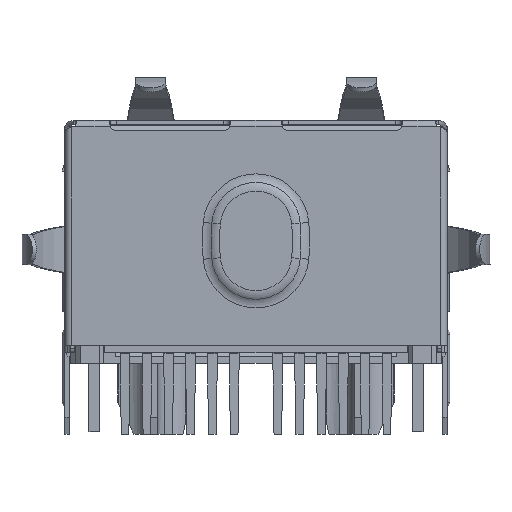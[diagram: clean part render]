
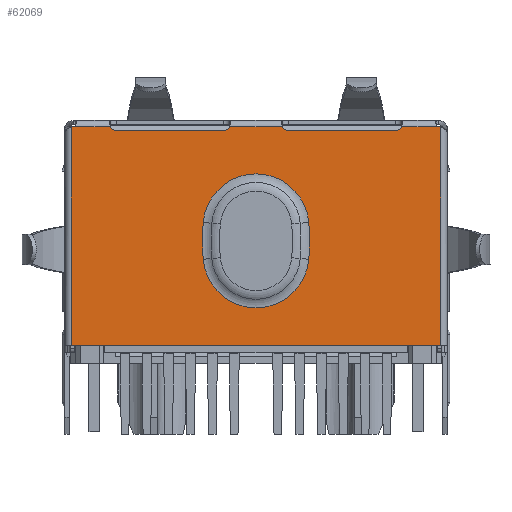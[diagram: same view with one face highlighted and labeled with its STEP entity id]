
A CAD part, front view. The second image highlights one B-rep face of the part: STEP entity #62069.
In plain terms, the highlighted planar face has unit normal (0, -1, 0).
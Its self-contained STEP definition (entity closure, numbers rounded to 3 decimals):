
#52472=CARTESIAN_POINT('',(27.958,-0.45,
6.612));
#52612=DIRECTION('',(-1.,0.,0.));
#52613=VECTOR('',#52612,0.1);
#52614=CARTESIAN_POINT('',(27.958,-0.45,
6.612));
#52615=LINE('',#52614,#52613);
#52616=CARTESIAN_POINT('',(29.948,-0.45,6.741));
#52617=DIRECTION('',(0.,-1.,0.));
#52618=DIRECTION('',(-0.904,0.,-0.428));
#52619=AXIS2_PLACEMENT_3D('',#52616,#52617,#52618);
#52621=CARTESIAN_POINT('',(34.948,-0.45,6.741));
#52622=DIRECTION('',(0.,-1.,0.));
#52623=DIRECTION('',(0.,0.,-1.));
#52624=AXIS2_PLACEMENT_3D('',#52621,#52622,#52623);
#52626=CARTESIAN_POINT('',(37.948,-0.45,6.741));
#52627=DIRECTION('',(0.,-1.,0.));
#52628=DIRECTION('',(-0.904,0.,-0.428));
#52629=AXIS2_PLACEMENT_3D('',#52626,#52627,#52628);
#52631=CARTESIAN_POINT('',(42.948,-0.45,6.741));
#52632=DIRECTION('',(0.,-1.,0.));
#52633=DIRECTION('',(0.,0.,-1.));
#52634=AXIS2_PLACEMENT_3D('',#52631,#52632,#52633);
#52636=DIRECTION('',(-1.,0.,0.));
#52637=VECTOR('',#52636,17.18);
#52638=CARTESIAN_POINT('',(45.038,-0.45,
-3.538));
#52639=LINE('',#52638,#52637);
#52640=CARTESIAN_POINT('',(36.448,-0.45,1.962));
#52641=DIRECTION('',(0.,-1.,0.));
#52642=DIRECTION('',(0.997,0.,0.082));
#52643=AXIS2_PLACEMENT_3D('',#52640,#52641,#52642);
#52645=CARTESIAN_POINT('',(44.321,-0.45,1.312));
#52646=DIRECTION('',(0.,-1.,0.));
#52647=DIRECTION('',(-0.997,0.,0.082));
#52648=AXIS2_PLACEMENT_3D('',#52645,#52646,#52647);
#52650=CARTESIAN_POINT('',(36.448,-0.45,0.662));
#52651=DIRECTION('',(0.,-1.,0.));
#52652=DIRECTION('',(-0.997,0.,-0.082));
#52653=AXIS2_PLACEMENT_3D('',#52650,#52651,#52652);
#52655=CARTESIAN_POINT('',(28.575,-0.45,1.312));
#52656=DIRECTION('',(0.,-1.,0.));
#52657=DIRECTION('',(0.997,0.,-0.082));
#52658=AXIS2_PLACEMENT_3D('',#52655,#52656,#52657);
#52660=DIRECTION('',(0.,0.,-1.));
#52661=VECTOR('',#52660,10.15);
#52662=CARTESIAN_POINT('',(27.858,-0.45,
6.612));
#52663=LINE('',#52662,#52661);
#52704=DIRECTION('',(0.,0.,1.));
#52705=VECTOR('',#52704,10.15);
#52706=CARTESIAN_POINT('',(45.038,-0.45,
-3.538));
#52707=LINE('',#52706,#52705);
#52864=DIRECTION('',(-1.,0.,0.));
#52865=VECTOR('',#52864,0.1);
#52866=CARTESIAN_POINT('',(45.038,-0.45,6.612));
#52867=LINE('',#52866,#52865);
#53024=DIRECTION('',(-1.,0.,0.));
#53025=VECTOR('',#53024,2.458);
#53026=CARTESIAN_POINT('',(37.677,-0.45,6.612));
#53027=LINE('',#53026,#53025);
#53045=DIRECTION('',(-1.,0.,0.));
#53046=VECTOR('',#53045,5.);
#53047=CARTESIAN_POINT('',(34.948,-0.45,6.441));
#53048=LINE('',#53047,#53046);
#53053=DIRECTION('',(-1.,0.,0.));
#53054=VECTOR('',#53053,5.);
#53055=CARTESIAN_POINT('',(42.948,-0.45,6.441));
#53056=LINE('',#53055,#53054);
#53070=DIRECTION('',(-1.,0.,0.));
#53071=VECTOR('',#53070,1.719);
#53072=CARTESIAN_POINT('',(44.938,-0.45,6.612));
#53073=LINE('',#53072,#53071);
#53608=DIRECTION('',(-1.,0.,0.));
#53609=VECTOR('',#53608,1.719);
#53610=CARTESIAN_POINT('',(29.677,-0.45,6.612));
#53611=LINE('',#53610,#53609);
#56525=VERTEX_POINT('',#52472);
#56527=CARTESIAN_POINT('',(29.677,-0.45,6.612));
#56528=VERTEX_POINT('',#56527);
#56531=CARTESIAN_POINT('',(29.948,-0.45,6.441));
#56532=VERTEX_POINT('',#56531);
#56566=CARTESIAN_POINT('',(27.858,-0.45,
6.612));
#56567=VERTEX_POINT('',#56566);
#56569=CARTESIAN_POINT('',(27.858,-0.45,
-3.538));
#56570=VERTEX_POINT('',#56569);
#56571=CARTESIAN_POINT('',(34.948,-0.45,6.441));
#56572=VERTEX_POINT('',#56571);
#56573=CARTESIAN_POINT('',(35.219,-0.45,6.612));
#56574=VERTEX_POINT('',#56573);
#56575=CARTESIAN_POINT('',(37.677,-0.45,6.612));
#56576=VERTEX_POINT('',#56575);
#56577=CARTESIAN_POINT('',(37.948,-0.45,6.441));
#56578=VERTEX_POINT('',#56577);
#56579=CARTESIAN_POINT('',(42.948,-0.45,6.441));
#56580=VERTEX_POINT('',#56579);
#56581=CARTESIAN_POINT('',(43.219,-0.45,6.612));
#56582=VERTEX_POINT('',#56581);
#56583=CARTESIAN_POINT('',(44.938,-0.45,6.612));
#56584=VERTEX_POINT('',#56583);
#56585=CARTESIAN_POINT('',(45.038,-0.45,6.612));
#56586=VERTEX_POINT('',#56585);
#56587=CARTESIAN_POINT('',(45.038,-0.45,
-3.538));
#56588=VERTEX_POINT('',#56587);
#56589=CARTESIAN_POINT('',(38.905,-0.45,2.165));
#56590=CARTESIAN_POINT('',(33.991,-0.45,2.165));
#56591=VERTEX_POINT('',#56589);
#56592=VERTEX_POINT('',#56590);
#56593=CARTESIAN_POINT('',(33.991,-0.45,0.46));
#56594=VERTEX_POINT('',#56593);
#56595=CARTESIAN_POINT('',(38.905,-0.45,0.46));
#56596=VERTEX_POINT('',#56595);
#62026=CARTESIAN_POINT('',(36.448,-0.45,
1.537));
#62027=DIRECTION('',(0.,1.,0.));
#62028=DIRECTION('',(1.,0.,0.));
#62029=AXIS2_PLACEMENT_3D('',#62026,#62027,#62028);
#62030=PLANE('',#62029);
#62032=ORIENTED_EDGE('',*,*,#62031,.F.);
#62033=ORIENTED_EDGE('',*,*,#62020,.F.);
#62035=ORIENTED_EDGE('',*,*,#62034,.F.);
#62036=ORIENTED_EDGE('',*,*,#61909,.T.);
#62038=ORIENTED_EDGE('',*,*,#62037,.F.);
#62040=ORIENTED_EDGE('',*,*,#62039,.T.);
#62042=ORIENTED_EDGE('',*,*,#62041,.F.);
#62044=ORIENTED_EDGE('',*,*,#62043,.T.);
#62046=ORIENTED_EDGE('',*,*,#62045,.F.);
#62048=ORIENTED_EDGE('',*,*,#62047,.T.);
#62050=ORIENTED_EDGE('',*,*,#62049,.F.);
#62052=ORIENTED_EDGE('',*,*,#62051,.F.);
#62054=ORIENTED_EDGE('',*,*,#62053,.F.);
#62056=ORIENTED_EDGE('',*,*,#62055,.T.);
#62057=EDGE_LOOP('',(#62032,#62033,#62035,#62036,#62038,#62040,#62042,#62044,
#62046,#62048,#62050,#62052,#62054,#62056));
#62058=FACE_OUTER_BOUND('',#62057,.F.);
#62060=ORIENTED_EDGE('',*,*,#62059,.T.);
#62062=ORIENTED_EDGE('',*,*,#62061,.T.);
#62064=ORIENTED_EDGE('',*,*,#62063,.T.);
#62066=ORIENTED_EDGE('',*,*,#62065,.T.);
#62067=EDGE_LOOP('',(#62060,#62062,#62064,#62066));
#62068=FACE_BOUND('',#62067,.F.);
#62069=ADVANCED_FACE('',(#62058,#62068),#62030,.F.);
#52620=CIRCLE('',#52619,0.3);
#52625=CIRCLE('',#52624,0.3);
#52630=CIRCLE('',#52629,0.3);
#52635=CIRCLE('',#52634,0.3);
#52644=CIRCLE('',#52643,2.465);
#52649=CIRCLE('',#52648,10.365);
#52654=CIRCLE('',#52653,2.465);
#52659=CIRCLE('',#52658,10.365);
#61909=EDGE_CURVE('',#56528,#56532,#52620,.T.);
#62020=EDGE_CURVE('',#56525,#56567,#52615,.T.);
#62031=EDGE_CURVE('',#56567,#56570,#52663,.T.);
#62034=EDGE_CURVE('',#56528,#56525,#53611,.T.);
#62037=EDGE_CURVE('',#56572,#56532,#53048,.T.);
#62039=EDGE_CURVE('',#56572,#56574,#52625,.T.);
#62041=EDGE_CURVE('',#56576,#56574,#53027,.T.);
#62043=EDGE_CURVE('',#56576,#56578,#52630,.T.);
#62045=EDGE_CURVE('',#56580,#56578,#53056,.T.);
#62047=EDGE_CURVE('',#56580,#56582,#52635,.T.);
#62049=EDGE_CURVE('',#56584,#56582,#53073,.T.);
#62051=EDGE_CURVE('',#56586,#56584,#52867,.T.);
#62053=EDGE_CURVE('',#56588,#56586,#52707,.T.);
#62055=EDGE_CURVE('',#56588,#56570,#52639,.T.);
#62059=EDGE_CURVE('',#56591,#56592,#52644,.T.);
#62061=EDGE_CURVE('',#56592,#56594,#52649,.T.);
#62063=EDGE_CURVE('',#56594,#56596,#52654,.T.);
#62065=EDGE_CURVE('',#56596,#56591,#52659,.T.);
